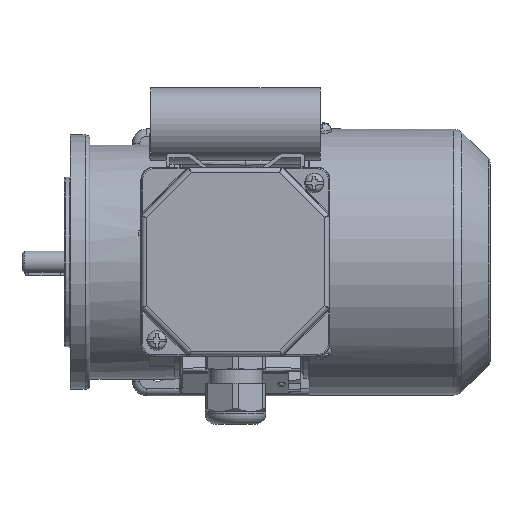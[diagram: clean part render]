
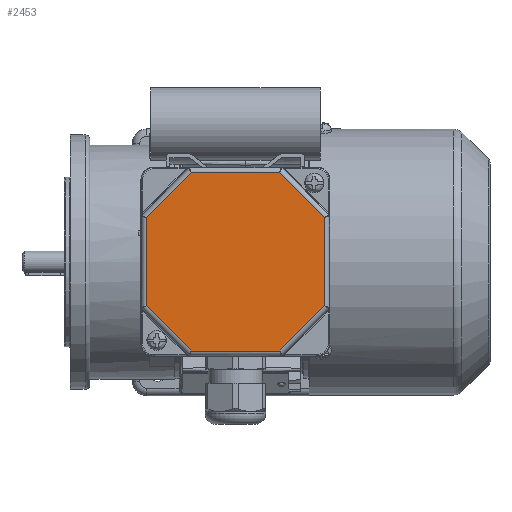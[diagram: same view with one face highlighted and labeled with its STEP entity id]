
A CAD part, top view. The second image highlights one B-rep face of the part: STEP entity #2453.
In plain terms, the highlighted planar face has unit normal (0, 0, 1).
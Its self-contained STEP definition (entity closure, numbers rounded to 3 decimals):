
#2453 = ADVANCED_FACE( '', ( #6047 ), #6048, .T. );
#6047 = FACE_OUTER_BOUND( '', #11608, .T. );
#6048 = PLANE( '', #11609 );
#11608 = EDGE_LOOP( '', ( #24410, #24411, #24412, #24413, #24414, #24415, #24416, #24417 ) );
#11609 = AXIS2_PLACEMENT_3D( '', #24418, #24419, #24420 );
#24410 = ORIENTED_EDGE( '', *, *, #39584, .T. );
#24411 = ORIENTED_EDGE( '', *, *, #39585, .T. );
#24412 = ORIENTED_EDGE( '', *, *, #39586, .T. );
#24413 = ORIENTED_EDGE( '', *, *, #39587, .T. );
#24414 = ORIENTED_EDGE( '', *, *, #39588, .T. );
#24415 = ORIENTED_EDGE( '', *, *, #39589, .T. );
#24416 = ORIENTED_EDGE( '', *, *, #39590, .T. );
#24417 = ORIENTED_EDGE( '', *, *, #39591, .T. );
#24418 = CARTESIAN_POINT( '', ( -39., 39., 12. ) );
#24419 = DIRECTION( '', ( 0., 0., 1. ) );
#24420 = DIRECTION( '', ( 1., 0., 0. ) );
#39584 = EDGE_CURVE( '', #46446, #46447, #46448, .F. );
#39585 = EDGE_CURVE( '', #46447, #46449, #46450, .T. );
#39586 = EDGE_CURVE( '', #46449, #46451, #46452, .F. );
#39587 = EDGE_CURVE( '', #46451, #46453, #46454, .T. );
#39588 = EDGE_CURVE( '', #46453, #46455, #46456, .F. );
#39589 = EDGE_CURVE( '', #46455, #46457, #46458, .T. );
#39590 = EDGE_CURVE( '', #46457, #46459, #46460, .F. );
#39591 = EDGE_CURVE( '', #46459, #46446, #46461, .T. );
#46446 = VERTEX_POINT( '', #55464 );
#46447 = VERTEX_POINT( '', #55465 );
#46448 = LINE( '', #55466, #55467 );
#46449 = VERTEX_POINT( '', #55468 );
#46450 = LINE( '', #55469, #55470 );
#46451 = VERTEX_POINT( '', #55471 );
#46452 = LINE( '', #55472, #55473 );
#46453 = VERTEX_POINT( '', #55474 );
#46454 = LINE( '', #55475, #55476 );
#46455 = VERTEX_POINT( '', #55477 );
#46456 = LINE( '', #55478, #55479 );
#46457 = VERTEX_POINT( '', #55480 );
#46458 = LINE( '', #55481, #55482 );
#46459 = VERTEX_POINT( '', #55483 );
#46460 = LINE( '', #55484, #55485 );
#46461 = LINE( '', #55486, #55487 );
#55464 = CARTESIAN_POINT( '', ( 36.825, -18.255, 12. ) );
#55465 = CARTESIAN_POINT( '', ( 36.825, 18.255, 12. ) );
#55466 = CARTESIAN_POINT( '', ( 36.825, 19.069, 12. ) );
#55467 = VECTOR( '', #73577, 1000. );
#55468 = CARTESIAN_POINT( '', ( 18.255, 36.825, 12. ) );
#55469 = CARTESIAN_POINT( '', ( 17.679, 37.401, 12. ) );
#55470 = VECTOR( '', #73578, 1000. );
#55471 = CARTESIAN_POINT( '', ( -18.255, 36.825, 12. ) );
#55472 = CARTESIAN_POINT( '', ( -19.069, 36.825, 12. ) );
#55473 = VECTOR( '', #73579, 1000. );
#55474 = CARTESIAN_POINT( '', ( -36.825, 18.255, 12. ) );
#55475 = CARTESIAN_POINT( '', ( -37.401, 17.679, 12. ) );
#55476 = VECTOR( '', #73580, 1000. );
#55477 = CARTESIAN_POINT( '', ( -36.825, -18.255, 12. ) );
#55478 = CARTESIAN_POINT( '', ( -36.825, -19.069, 12. ) );
#55479 = VECTOR( '', #73581, 1000. );
#55480 = CARTESIAN_POINT( '', ( -18.255, -36.825, 12. ) );
#55481 = CARTESIAN_POINT( '', ( -17.679, -37.401, 12. ) );
#55482 = VECTOR( '', #73582, 1000. );
#55483 = CARTESIAN_POINT( '', ( 18.255, -36.825, 12. ) );
#55484 = CARTESIAN_POINT( '', ( 19.069, -36.825, 12. ) );
#55485 = VECTOR( '', #73583, 1000. );
#55486 = CARTESIAN_POINT( '', ( 37.401, -17.679, 12. ) );
#55487 = VECTOR( '', #73584, 1000. );
#73577 = DIRECTION( '', ( 0., -1., 0. ) );
#73578 = DIRECTION( '', ( -0.707, 0.707, 0. ) );
#73579 = DIRECTION( '', ( 1., 0., 0. ) );
#73580 = DIRECTION( '', ( -0.707, -0.707, 0. ) );
#73581 = DIRECTION( '', ( 0., 1., 0. ) );
#73582 = DIRECTION( '', ( 0.707, -0.707, 0. ) );
#73583 = DIRECTION( '', ( -1., 0., 0. ) );
#73584 = DIRECTION( '', ( 0.707, 0.707, 0. ) );
